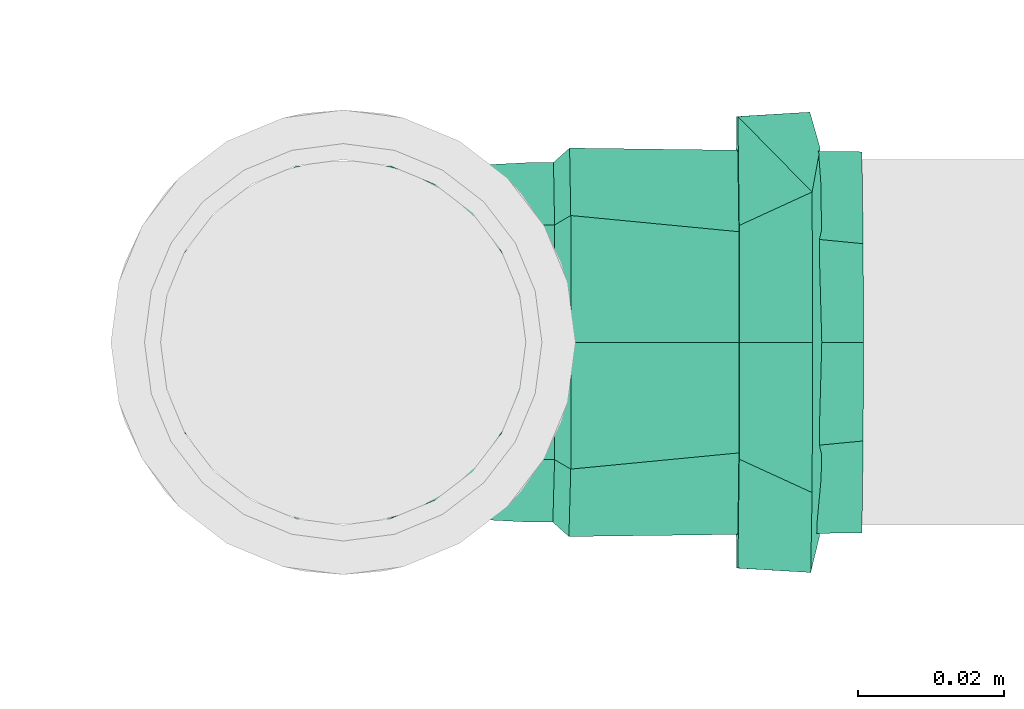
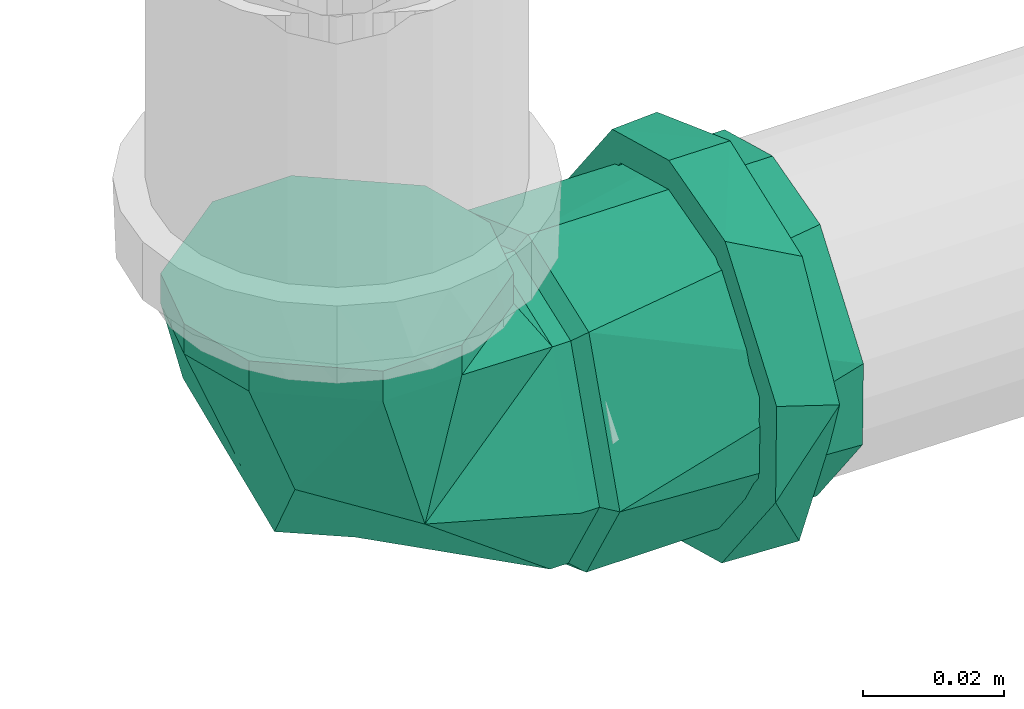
# One storey, part 215 of 589: 1 flow fitting.
"""IFC2X3 building model written with IfcOpenShell, lengths in millimetres."""

from ifc_helpers import new_model, entity, si_unit, converted_unit, derived_unit, direction, frame, origin, place, context, subcontext, project, spatial, faceted_brep, source, transform, mapped, material, type_object, type_shapes, element, save


model = new_model("IFC2X3")

# Units and contexts
model_context = context("Model", 3, precision=0.01, world=origin(), true_north=direction((6.123031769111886e-17, 1.0)))
body_context = subcontext(model_context, "Body", "Model", "MODEL_VIEW")
ifc_project = project(units=[si_unit("LENGTHUNIT", "METRE", prefix="MILLI"), si_unit("AREAUNIT", "SQUARE_METRE"), si_unit("VOLUMEUNIT", "CUBIC_METRE"), converted_unit("PLANEANGLEUNIT", "DEGREE", entity("IfcRatioMeasure", 0.017453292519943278), si_unit("PLANEANGLEUNIT", "RADIAN"), dimensions=[0, 0, 0, 0, 0, 0, 0]), si_unit("MASSUNIT", "GRAM", prefix="KILO"), derived_unit("MASSDENSITYUNIT", [(si_unit("MASSUNIT", "GRAM", prefix="KILO"), 1), (si_unit("LENGTHUNIT", "METRE"), -3)]), derived_unit("IONCONCENTRATIONUNIT", [(si_unit("MASSUNIT", "GRAM", prefix="KILO"), 1), (si_unit("LENGTHUNIT", "METRE"), -3)]), derived_unit("MOMENTOFINERTIAUNIT", [(si_unit("LENGTHUNIT", "METRE"), 4)]), si_unit("TIMEUNIT", "SECOND"), si_unit("FREQUENCYUNIT", "HERTZ"), si_unit("THERMODYNAMICTEMPERATUREUNIT", "DEGREE_CELSIUS"), derived_unit("THERMALTRANSMITTANCEUNIT", [(si_unit("MASSUNIT", "GRAM", prefix="KILO"), 1), (si_unit("THERMODYNAMICTEMPERATUREUNIT", "KELVIN"), -1), (si_unit("TIMEUNIT", "SECOND"), -3)]), derived_unit("THERMALCONDUCTANCEUNIT", [(si_unit("MASSUNIT", "GRAM", prefix="KILO"), 1), (si_unit("THERMODYNAMICTEMPERATUREUNIT", "KELVIN"), -1), (si_unit("TIMEUNIT", "SECOND"), -3), (si_unit("LENGTHUNIT", "METRE"), 1)]), derived_unit("VOLUMETRICFLOWRATEUNIT", [(si_unit("LENGTHUNIT", "METRE"), 3), (si_unit("TIMEUNIT", "SECOND"), -1)]), derived_unit("MASSFLOWRATEUNIT", [(si_unit("MASSUNIT", "GRAM", prefix="KILO"), 1), (si_unit("TIMEUNIT", "SECOND"), -1)]), derived_unit("ROTATIONALFREQUENCYUNIT", [(si_unit("TIMEUNIT", "SECOND"), -1)]), si_unit("ELECTRICCURRENTUNIT", "AMPERE"), si_unit("ELECTRICVOLTAGEUNIT", "VOLT"), si_unit("POWERUNIT", "WATT"), si_unit("FORCEUNIT", "NEWTON", prefix="KILO"), si_unit("ILLUMINANCEUNIT", "LUX"), si_unit("LUMINOUSFLUXUNIT", "LUMEN"), si_unit("LUMINOUSINTENSITYUNIT", "CANDELA"), derived_unit("USERDEFINED", [(si_unit("MASSUNIT", "GRAM", prefix="KILO"), -1), (si_unit("LENGTHUNIT", "METRE"), -2), (si_unit("TIMEUNIT", "SECOND"), 3), (si_unit("LUMINOUSFLUXUNIT", "LUMEN"), 1)]), derived_unit("USERDEFINED", [(si_unit("MASSUNIT", "GRAM", prefix="KILO"), 1), (si_unit("TIMEUNIT", "SECOND"), -3), (si_unit("LENGTHUNIT", "METRE"), 3), (si_unit("ELECTRICCURRENTUNIT", "AMPERE"), -2)]), derived_unit("SOUNDPOWERUNIT", [(si_unit("MASSUNIT", "GRAM", prefix="KILO"), 1), (si_unit("TIMEUNIT", "SECOND"), -3), (si_unit("LENGTHUNIT", "METRE"), 2)]), derived_unit("SOUNDPRESSUREUNIT", [(si_unit("MASSUNIT", "GRAM", prefix="KILO"), 1), (si_unit("LENGTHUNIT", "METRE"), -1), (si_unit("TIMEUNIT", "SECOND"), -2)]), derived_unit("LINEARVELOCITYUNIT", [(si_unit("LENGTHUNIT", "METRE"), 1), (si_unit("TIMEUNIT", "SECOND"), -1)]), si_unit("PRESSUREUNIT", "PASCAL"), derived_unit("USERDEFINED", [(si_unit("MASSUNIT", "GRAM", prefix="KILO"), 1), (si_unit("LENGTHUNIT", "METRE"), -2), (si_unit("TIMEUNIT", "SECOND"), -2)]), derived_unit("LINEARFORCEUNIT", [(si_unit("MASSUNIT", "GRAM", prefix="KILO"), 1), (si_unit("TIMEUNIT", "SECOND"), -2)]), derived_unit("PLANARFORCEUNIT", [(si_unit("MASSUNIT", "GRAM", prefix="KILO"), 1), (si_unit("LENGTHUNIT", "METRE"), -1), (si_unit("TIMEUNIT", "SECOND"), -2)]), derived_unit("SPECIFICHEATCAPACITYUNIT", [(si_unit("THERMODYNAMICTEMPERATUREUNIT", "KELVIN"), -1), (si_unit("LENGTHUNIT", "METRE"), 2), (si_unit("TIMEUNIT", "SECOND"), -2)]), derived_unit("HEATINGVALUEUNIT", [(si_unit("LENGTHUNIT", "METRE"), 2), (si_unit("TIMEUNIT", "SECOND"), -2)]), derived_unit("VAPORPERMEABILITYUNIT", [(si_unit("LENGTHUNIT", "METRE"), -1), (si_unit("TIMEUNIT", "SECOND"), 1)]), derived_unit("DYNAMICVISCOSITYUNIT", [(si_unit("MASSUNIT", "GRAM", prefix="KILO"), 1), (si_unit("TIMEUNIT", "SECOND"), -1), (si_unit("LENGTHUNIT", "METRE"), -1)]), derived_unit("THERMALEXPANSIONCOEFFICIENTUNIT", [(si_unit("THERMODYNAMICTEMPERATUREUNIT", "KELVIN"), -1)]), derived_unit("MODULUSOFELASTICITYUNIT", [(si_unit("MASSUNIT", "GRAM", prefix="KILO"), 1), (si_unit("LENGTHUNIT", "METRE"), -1), (si_unit("TIMEUNIT", "SECOND"), -2)]), derived_unit("ISOTHERMALMOISTURECAPACITYUNIT", [(si_unit("LENGTHUNIT", "METRE"), 3), (si_unit("MASSUNIT", "GRAM", prefix="KILO"), -1)]), derived_unit("MOISTUREDIFFUSIVITYUNIT", [(si_unit("TIMEUNIT", "SECOND"), -1), (si_unit("LENGTHUNIT", "METRE"), 2)])], contexts=[model_context])

# Site, building, storey
site_placement = place(None, origin())
site = spatial("IfcSite", under=ifc_project, at=site_placement, Name="Default", CompositionType="ELEMENT")
building_placement = place(site_placement, origin())
building = spatial("IfcBuilding", under=site, at=building_placement, CompositionType="ELEMENT")
storey_placement = place(building_placement, frame((0.0, 0.0, 100.0)))
storey = spatial("IfcBuildingStorey", under=building, at=storey_placement, Name="TÉRREO", CompositionType="ELEMENT", Elevation=100.0)

# Flow fitting
ifc_material = material(Name="PVC Série Normal")
pipe_fitting_type = type_object("IfcPipeFittingType", Name="PVC Esgoto_Joelho 45_90_Rodrigo MEP:a. Série Normal", PredefinedType="NOTDEFINED", material=ifc_material)
shared_shape = source(origin(), body_context, "Body", "Brep", [
    faceted_brep([(-6.212752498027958, 25.804714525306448, 24.14814565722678), (-21.392152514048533, 25.95650852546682, 12.500000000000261), (-24.741349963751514, 25.990000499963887, 0.0), (-21.392152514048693, 25.956508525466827, -12.499999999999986), (-6.21275249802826, 25.804714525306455, -24.1481456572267), (6.727552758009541, 25.675311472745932, -24.14814565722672), (21.906952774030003, 25.52351747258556, -12.500000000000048), (25.256150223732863, 25.490025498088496, 0.0), (21.906952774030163, 25.52351747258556, 12.499999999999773), (6.7275527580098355, 25.675311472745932, 24.148145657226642), (25.308147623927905, 30.689765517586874, 0.0), (21.958950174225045, 30.72325749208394, -12.500000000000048), (6.779550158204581, 30.87505149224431, -24.14814565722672), (-6.160755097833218, 31.004454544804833, -24.1481456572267), (-21.34015511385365, 31.156248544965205, -12.499999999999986), (-24.689352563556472, 31.18974051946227, 0.0), (-21.340155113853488, 31.1562485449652, 12.500000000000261), (-6.160755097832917, 31.00445454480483, 24.14814565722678), (6.779550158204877, 30.87505149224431, 24.148145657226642), (21.958950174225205, 30.72325749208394, 12.499999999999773)], [[[0, 1, 2, 3, 4, 5, 6, 7, 8, 9]], [[10, 11, 12, 13, 14, 15, 16, 17, 18, 19]], [[7, 10, 19, 8]], [[8, 19, 18, 9]], [[18, 17, 0, 9]], [[0, 17, 16, 1]], [[1, 16, 15, 2]], [[2, 15, 14, 3]], [[3, 14, 13, 4]], [[13, 12, 5, 4]], [[5, 12, 11, 6]], [[6, 11, 10, 7]]]),
    faceted_brep([(-70.94129996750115, -6.988114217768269, -26.07999730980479), (-70.94129996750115, -6.47047612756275, -24.14814565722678), (-70.94129996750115, 6.4704761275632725, -24.148145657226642), (-70.94129996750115, -23.382685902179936, -13.499999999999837), (-70.94129996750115, 6.988114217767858, -26.0799973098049), (-70.94129996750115, -21.650635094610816, -12.500000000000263), (-70.94129996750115, -25.0, 0.0), (-70.94129996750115, -27.0, 0.0), (-70.94129996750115, -21.650635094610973, 12.499999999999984), (-70.94129996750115, -23.382685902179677, 13.500000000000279), (-70.94129996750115, -6.470476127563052, 24.1481456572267), (-70.94129996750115, -6.98811421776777, 26.079997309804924), (-70.94129996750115, 6.470476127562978, 24.14814565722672), (-70.94129996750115, 6.988114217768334, 26.07999730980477), (-70.94129996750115, 21.650635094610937, 12.500000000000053), (-70.94129996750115, 23.38268590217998, 13.499999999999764), (-70.94129996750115, 27.0, 0.0), (-70.94129996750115, 25.0, 0.0), (-70.94129996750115, 23.382685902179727, -13.500000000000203), (-70.94129996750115, 21.6506350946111, -12.499999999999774), (-30.94129996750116, 21.650635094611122, -12.499999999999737), (-30.94129996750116, 25.0, 0.0), (-30.94129996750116, 6.4704761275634, -24.148145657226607), (-30.94129996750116, -6.470476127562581, -24.148145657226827), (-30.94129996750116, -21.650635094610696, -12.500000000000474), (-30.94129996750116, -25.0, 0.0), (-30.94129996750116, -21.65063509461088, 12.500000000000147), (-30.94129996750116, -6.470476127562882, 24.14814565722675), (-30.94129996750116, 6.470476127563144, 24.148145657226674), (-30.94129996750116, 21.650635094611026, 12.499999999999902), (-30.94129996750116, 27.0, 0.0), (-30.941299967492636, 20.682232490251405, 17.356418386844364), (-30.94129996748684, 4.685536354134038, 26.59033187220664), (-30.94129996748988, -20.686585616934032, 17.35122979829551), (-30.94129996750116, -27.0, 0.0), (-30.941299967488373, -8.000524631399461, 21.970780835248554), (-30.94129996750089, -20.686585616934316, -17.35122979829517), (-30.9412999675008, -4.6922062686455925, -26.589155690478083), (-30.94129996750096, 20.682232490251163, -17.356418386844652), (-30.94129996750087, 7.995013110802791, -21.97278703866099), (-28.74129996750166, -4.338459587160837, -24.62067765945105), (-28.741299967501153, 25.0, 0.0), (-28.741299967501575, 19.154245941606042, -16.065953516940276), (-28.741299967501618, 7.407893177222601, -20.34331558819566), (-28.741299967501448, -19.15021526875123, -16.070757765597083), (-28.741299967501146, -25.0, 0.0), (-28.741299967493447, -19.150215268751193, 16.07075776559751), (-28.741299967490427, -7.402789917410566, 20.345173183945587), (-28.74129996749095, 19.15424594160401, 16.065953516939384), (-28.741299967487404, 4.344635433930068, 24.619588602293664), (-25.741299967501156, 25.0, 0.0), (-25.741299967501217, 19.151286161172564, 16.069481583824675), (-25.741299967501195, 4.341396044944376, 24.62016003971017), (-25.741299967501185, -7.404832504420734, 20.344954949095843), (-25.741299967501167, -19.15106105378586, 16.069749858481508), (-25.741299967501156, -25.0, 0.0), (-25.741299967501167, -19.15106105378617, -16.069749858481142), (-25.741299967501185, -4.341051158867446, -24.62022085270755), (-25.741299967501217, 19.15128616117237, -16.069481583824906), (-25.7412999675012, 7.405117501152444, -20.344851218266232), (-6.212752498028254, 25.80471452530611, -24.1481456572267), (-21.39215251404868, 25.95650852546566, -12.499999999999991), (-24.74134996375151, 25.990000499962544, 0.0), (-21.3921525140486, 25.956508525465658, 12.500000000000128), (-6.2127524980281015, 25.80471452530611, 24.14814565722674), (6.7275527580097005, 25.67531147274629, 24.148145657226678), (21.906952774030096, 25.52351747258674, 12.499999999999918), (25.256150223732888, 25.490025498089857, 0.0), (21.90695277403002, 25.523517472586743, -12.500000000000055), (6.727552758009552, 25.67531147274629, -24.14814565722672), (-0.83580225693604, 1.5246716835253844, 23.354962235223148), (-3.2027279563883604, -15.730161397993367, 0.0), (10.140389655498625, -10.242300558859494, 0.0), (16.135012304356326, 8.632944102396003, 15.848254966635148), (-25.03773742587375, 25.289366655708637, 0.0), (15.761400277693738, 3.0452732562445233, 0.0), (16.135011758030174, 8.632944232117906, -15.848255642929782), (-0.8751695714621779, 1.433288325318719, -23.341145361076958)], [[[0, 1, 2]], [[1, 0, 3]], [[2, 4, 0]], [[3, 5, 1]], [[3, 6, 5]], [[6, 3, 7]], [[8, 6, 7]], [[8, 7, 9]], [[9, 10, 8]], [[9, 11, 10]], [[10, 11, 12]], [[13, 12, 11]], [[13, 14, 12]], [[14, 13, 15]], [[16, 14, 15]], [[17, 14, 16]], [[18, 17, 16]], [[18, 19, 17]], [[19, 18, 4]], [[4, 2, 19]], [[20, 21, 17, 19]], [[22, 20, 19, 2]], [[2, 1, 23, 22]], [[24, 23, 1, 5]], [[25, 24, 5, 6]], [[26, 25, 6, 8]], [[27, 26, 8, 10]], [[10, 12, 28, 27]], [[29, 28, 12, 14]], [[21, 29, 14, 17]], [[16, 15, 30]], [[15, 31, 30]], [[31, 15, 13]], [[31, 13, 32]], [[33, 11, 9]], [[34, 9, 7]], [[11, 33, 35, 32]], [[33, 9, 34]], [[11, 32, 13]], [[7, 3, 34]], [[3, 36, 34]], [[36, 3, 0]], [[36, 0, 37]], [[38, 4, 18]], [[30, 18, 16]], [[4, 38, 39, 37]], [[38, 18, 30]], [[4, 37, 0]], [[28, 29, 21, 20, 22, 23, 24, 25, 26, 27]], [[39, 40, 37]], [[41, 42, 30]], [[30, 42, 38]], [[38, 43, 39]], [[44, 45, 36]], [[38, 42, 43]], [[36, 37, 44]], [[34, 36, 45]], [[40, 39, 43]], [[44, 37, 40]], [[45, 46, 33]], [[33, 34, 45]], [[46, 35, 33]], [[46, 47, 35]], [[47, 32, 35]], [[48, 41, 30]], [[48, 31, 49]], [[31, 48, 30]], [[32, 47, 49]], [[49, 31, 32]], [[41, 48, 50]], [[48, 51, 50]], [[51, 48, 49]], [[51, 49, 52]], [[52, 47, 53]], [[46, 54, 53]], [[46, 45, 54]], [[49, 47, 52]], [[54, 45, 55]], [[47, 46, 53]], [[45, 44, 56]], [[45, 56, 55]], [[56, 44, 57]], [[58, 59, 43]], [[44, 40, 57]], [[40, 59, 57]], [[58, 43, 42]], [[42, 50, 58]], [[50, 42, 41]], [[59, 40, 43]], [[60, 61, 62, 63, 64, 65, 66, 67, 68, 69]], [[52, 70, 51]], [[54, 71, 70]], [[70, 52, 53, 54]], [[72, 73, 70]], [[50, 63, 74]], [[51, 63, 50]], [[54, 55, 71]], [[72, 70, 71]], [[75, 67, 66]], [[65, 70, 73]], [[73, 75, 66]], [[74, 63, 62]], [[73, 66, 65]], [[63, 51, 64]], [[70, 64, 51]], [[73, 72, 75]], [[65, 64, 70]], [[72, 76, 75]], [[71, 55, 56]], [[77, 58, 60]], [[77, 57, 59, 58]], [[77, 71, 56]], [[56, 57, 77]], [[77, 69, 76]], [[58, 50, 61]], [[74, 62, 61]], [[71, 77, 72]], [[61, 60, 58]], [[68, 75, 76]], [[68, 67, 75]], [[72, 77, 76]], [[76, 69, 68]], [[60, 69, 77]], [[61, 50, 74]]]),
    faceted_brep([(-53.94129996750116, 6.9881142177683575, -26.07999730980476), (-53.94129996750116, -6.988114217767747, -26.079997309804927), (-53.94129996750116, -8.282209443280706, -30.909626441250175), (-53.94129996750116, 8.28220944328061, -30.9096264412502), (-53.94129996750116, 23.38268590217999, -13.499999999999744), (-53.94129996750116, -27.712812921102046, -16.0), (-53.94129996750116, -23.38268590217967, -13.500000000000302), (-53.94129996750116, -27.0, 0.0), (-53.94129996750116, -32.0, 0.0), (-53.94129996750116, -23.382685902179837, 13.500000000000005), (-53.94129996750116, -27.712812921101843, 16.0), (-53.94129996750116, -6.988114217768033, 26.07999730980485), (-53.94129996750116, -8.28220944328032, 30.909626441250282), (-53.94129996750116, 6.988114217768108, 26.07999730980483), (-53.94129996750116, 8.282209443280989, 30.909626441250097), (-53.94129996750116, 23.382685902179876, 13.499999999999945), (-53.94129996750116, 27.712812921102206, 16.0), (-53.94129996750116, 32.0, 0.0), (-53.94129996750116, 27.0, 0.0), (-53.94129996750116, 27.712812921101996, -16.0), (-63.94129996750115, 27.0, 0.0), (-65.24129996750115, 27.0, 0.0), (-63.94129996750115, 25.191342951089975, -6.750000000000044), (-63.94129996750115, 23.38268590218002, -13.499999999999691), (-63.94129996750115, 19.284042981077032, -16.644999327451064), (-63.94129996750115, 15.185400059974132, -19.789998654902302), (-63.94129996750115, 11.086757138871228, -22.934997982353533), (-63.94129996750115, 6.988114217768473, -26.07999730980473), (-63.94129996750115, 0.0, -26.079997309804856), (-63.94129996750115, -6.988114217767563, -26.079997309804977), (-63.94129996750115, -11.086757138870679, -22.934997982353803), (-63.94129996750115, -15.185400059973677, -19.789998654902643), (-63.94129996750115, -19.284042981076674, -16.644999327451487), (-63.94129996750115, -23.382685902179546, -13.50000000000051), (-63.94129996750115, -25.191342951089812, -6.750000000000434), (-65.24129996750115, -27.0, 0.0), (-63.94129996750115, -27.0, 0.0), (-63.94129996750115, -25.19134295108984, 6.750000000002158), (-63.94129996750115, -23.382685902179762, 13.500000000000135), (-63.94129996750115, -19.284042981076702, 16.64499932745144), (-63.94129996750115, -15.185400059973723, 19.7899986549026), (-63.94129996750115, -11.086757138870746, 22.934997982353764), (-63.94129996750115, -6.988114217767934, 26.079997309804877), (-63.94129996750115, 0.0, 26.079997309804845), (-63.94129996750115, 6.988114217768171, 26.079997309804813), (-63.94129996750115, 11.086757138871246, 22.93499798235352), (-63.94129996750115, 15.185400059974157, 19.789998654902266), (-63.94129996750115, 19.284042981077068, 16.644999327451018), (-63.94129996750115, 23.382685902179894, 13.499999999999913), (-63.94129996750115, 25.19134295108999, 6.74999999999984), (-63.94129996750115, 32.0, 0.0), (-63.94129996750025, 24.512275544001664, 20.570569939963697), (-63.94129996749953, -5.561133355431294, 31.51307341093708), (-63.94129996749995, -24.51743480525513, 20.56442050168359), (-63.94129996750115, -32.0, 0.0), (-63.9412999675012, -24.51743480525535, -20.564420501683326), (-63.941299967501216, 5.553228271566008, -31.514467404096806), (-63.94129996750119, 24.512275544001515, -20.570569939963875), (-65.2412999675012, -23.84329280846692, -8.675614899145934), (-65.24129996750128, -20.686585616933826, -17.351229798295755), (-65.24129996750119, 23.841116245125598, -8.678209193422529), (-65.24129996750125, 20.6822324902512, -17.356418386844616), (-65.24129996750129, -12.689395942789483, -21.970192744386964), (-65.24129996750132, -4.692206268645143, -26.589155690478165), (-65.24129996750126, 14.338622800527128, -19.664602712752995), (-65.24129996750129, 1.6514034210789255, -24.280971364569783), (-65.24129996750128, 7.995013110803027, -21.97278703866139), (-65.24129996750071, 23.84111624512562, 8.678209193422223), (-65.24129996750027, 20.68223249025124, 17.35641838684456), (-65.24129996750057, -23.843292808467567, 8.675614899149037), (-65.24129996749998, -20.68658561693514, 17.351229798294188), (-65.24129996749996, 12.683884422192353, 21.973375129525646), (-65.24129996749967, 4.685536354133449, 26.590331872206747), (-65.2412999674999, -14.343555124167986, 19.66100531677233), (-65.24129996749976, -1.6574941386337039, 24.280556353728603), (-65.24129996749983, -8.000524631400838, 21.97078083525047)], [[[0, 1, 2]], [[2, 3, 0]], [[4, 0, 3]], [[5, 2, 1]], [[1, 6, 5]], [[6, 7, 5]], [[8, 5, 7]], [[8, 7, 9]], [[10, 8, 9]], [[9, 11, 10]], [[11, 12, 10]], [[13, 12, 11]], [[12, 13, 14]], [[13, 15, 14]], [[16, 14, 15]], [[16, 15, 17]], [[17, 15, 18]], [[18, 4, 19]], [[17, 18, 19]], [[3, 19, 4]], [[4, 18, 20, 21, 22, 23]], [[0, 4, 23, 24, 25, 26, 27]], [[0, 27, 28, 29, 1]], [[6, 1, 29, 30, 31, 32, 33]], [[7, 6, 33, 34, 35, 36]], [[9, 7, 36, 35, 37, 38]], [[11, 9, 38, 39, 40, 41, 42]], [[11, 42, 43, 44, 13]], [[15, 13, 44, 45, 46, 47, 48]], [[18, 15, 48, 49, 21, 20]], [[50, 51, 16]], [[50, 16, 17]], [[16, 51, 14]], [[51, 52, 14]], [[12, 52, 53]], [[10, 53, 54]], [[53, 10, 12]], [[10, 54, 8]], [[52, 12, 14]], [[54, 55, 5]], [[54, 5, 8]], [[5, 55, 2]], [[55, 56, 2]], [[3, 56, 57]], [[19, 57, 50]], [[57, 19, 3]], [[19, 50, 17]], [[56, 3, 2]], [[58, 33, 59]], [[23, 60, 61]], [[32, 31, 59, 33]], [[30, 29, 62, 31]], [[24, 23, 61, 25]], [[29, 28, 63]], [[26, 25, 64]], [[65, 63, 28]], [[31, 62, 59]], [[63, 62, 29]], [[60, 22, 21]], [[34, 58, 35]], [[66, 26, 64]], [[28, 27, 65]], [[27, 66, 65]], [[27, 26, 66]], [[64, 25, 61]], [[34, 33, 58]], [[60, 23, 22]], [[67, 48, 68]], [[38, 69, 70]], [[47, 46, 68, 48]], [[45, 44, 71, 46]], [[39, 38, 70, 40]], [[44, 43, 72]], [[41, 40, 73]], [[74, 72, 43]], [[46, 71, 68]], [[72, 71, 44]], [[69, 37, 35]], [[49, 67, 21]], [[75, 41, 73]], [[43, 42, 74]], [[42, 75, 74]], [[42, 41, 75]], [[73, 40, 70]], [[49, 48, 67]], [[69, 38, 37]], [[54, 35, 58, 59, 55]], [[55, 59, 62, 63]], [[55, 63, 56]], [[57, 61, 60, 21, 50]], [[57, 56, 61]], [[56, 63, 65, 66, 64, 61]], [[50, 21, 67, 68, 51]], [[51, 68, 71, 72]], [[51, 72, 52]], [[53, 70, 69, 35, 54]], [[53, 52, 70]], [[52, 72, 74, 75, 73, 70]]]),
])
type_shapes(pipe_fitting_type, [shared_shape])
flow_fitting_placement = place(storey_placement, frame((10062.73595310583, 1357.0692483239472, -75.208859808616), z_axis=(0.0, 1.0, 0.0), x_axis=(-0.9999500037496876, 0.0, 0.009999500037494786)))
element("IfcFlowFitting", 1, at=flow_fitting_placement, inside=storey, type_object=pipe_fitting_type, material=ifc_material, Name="PVC Esgoto_Joelho 45_90_Rodrigo MEP:a. Série Normal", ObjectType="PVC Esgoto_Joelho 45_90_Rodrigo MEP:a. Série Normal", context=body_context, shape_type="MappedRepresentation", body=[
    mapped(shared_shape, transform((0.0, 0.0, 0.0), scale=1.0)),
])

save(model, "model.ifc")
